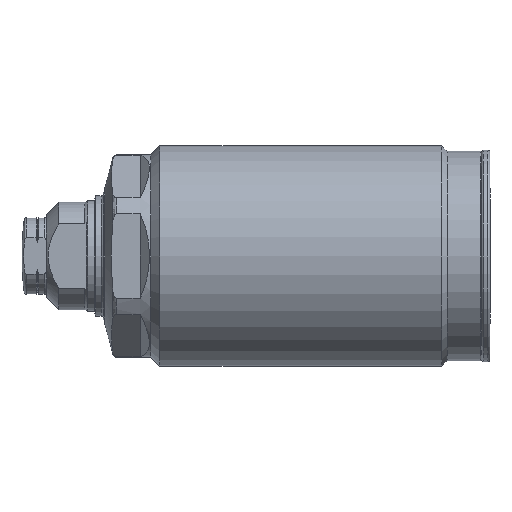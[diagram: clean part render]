
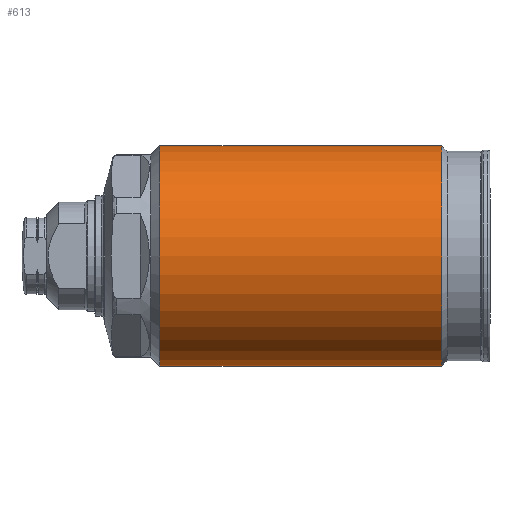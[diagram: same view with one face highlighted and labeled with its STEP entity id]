
A CAD part, left-side view. The second image highlights one B-rep face of the part: STEP entity #613.
In plain terms, the highlighted cylindrical face has radius 18 mm (diameter 36 mm), a partial arc.
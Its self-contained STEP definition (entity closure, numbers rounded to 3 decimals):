
#270=CYLINDRICAL_SURFACE('',#2682,18.);
#387=LINE('',#3863,#482);
#388=LINE('',#3867,#483);
#482=VECTOR('',#2987,1.);
#483=VECTOR('',#2990,1.);
#613=ADVANCED_FACE('',(#811),#270,.T.);
#811=FACE_OUTER_BOUND('',#964,.T.);
#964=EDGE_LOOP('',(#1291,#1292,#1293,#1294));
#1291=ORIENTED_EDGE('',*,*,#2031,.T.);
#1292=ORIENTED_EDGE('',*,*,#2121,.T.);
#1293=ORIENTED_EDGE('',*,*,#2033,.F.);
#1294=ORIENTED_EDGE('',*,*,#2120,.F.);
#1813=VERTEX_POINT('',#3858);
#1814=VERTEX_POINT('',#3860);
#1815=VERTEX_POINT('',#3864);
#1816=VERTEX_POINT('',#3866);
#2031=EDGE_CURVE('',#1815,#1813,#387,.T.);
#2033=EDGE_CURVE('',#1816,#1814,#388,.T.);
#2120=EDGE_CURVE('',#1815,#1816,#2422,.T.);
#2121=EDGE_CURVE('',#1813,#1814,#2423,.T.);
#2422=CIRCLE('',#2679,18.);
#2423=CIRCLE('',#2681,18.);
#2679=AXIS2_PLACEMENT_3D('',#4211,#3209,#3210);
#2681=AXIS2_PLACEMENT_3D('',#4213,#3213,#3214);
#2682=AXIS2_PLACEMENT_3D('',#4214,#3215,#3216);
#2987=DIRECTION('',(0.,1.,0.));
#2990=DIRECTION('',(0.,1.,0.));
#3209=DIRECTION('',(0.,-1.,0.));
#3210=DIRECTION('',(0.,0.,-1.));
#3213=DIRECTION('',(0.,-1.,0.));
#3214=DIRECTION('',(0.,0.,-1.));
#3215=DIRECTION('',(0.,-1.,0.));
#3216=DIRECTION('',(0.,0.,1.));
#3858=CARTESIAN_POINT('',(0.,52.6,18.));
#3860=CARTESIAN_POINT('',(0.,52.6,-18.));
#3863=CARTESIAN_POINT('',(0.,0.,18.));
#3864=CARTESIAN_POINT('',(0.,6.6,18.));
#3866=CARTESIAN_POINT('',(0.,6.6,-18.));
#3867=CARTESIAN_POINT('',(0.,0.,-18.));
#4211=CARTESIAN_POINT('',(0.,6.6,0.));
#4213=CARTESIAN_POINT('',(0.,52.6,0.));
#4214=CARTESIAN_POINT('',(0.,0.,0.));
